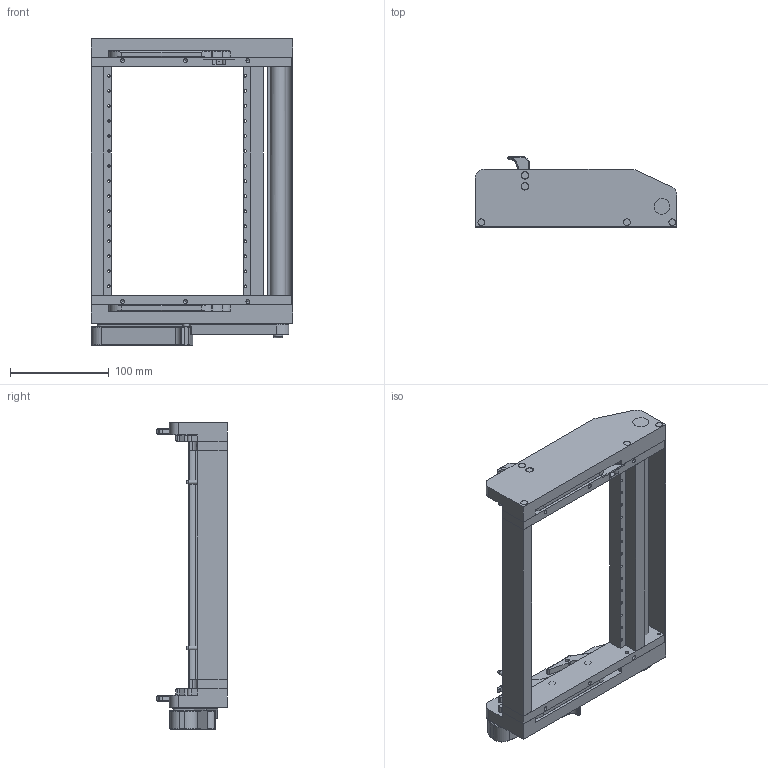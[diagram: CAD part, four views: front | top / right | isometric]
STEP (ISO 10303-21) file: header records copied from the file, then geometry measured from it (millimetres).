
FILE_DESCRIPTION((''),'2;1');
FILE_NAME('C:\old_Drawings\shrinkwrapped website .stp files\561354-STP.stp','2011-05-23T13:01:23',('GaryRobinson'),(''),'Autodesk Inventor 2011','Autodesk Inventor 2011','');
FILE_SCHEMA(('CONFIG_CONTROL_DESIGN'));
Length unit declared in the file: inch
Products named in the file (1): 561354-STP
Bounding box: 204.79 x 71.44 x 311.15 mm (x, y, z)
Surface area: 280838.5 mm2 (no closed solid volume)
Topology: 0 solids, 69 shells, 1360 faces, 3202 edges, 2043 vertices
Faces by surface type: plane 783, cylinder 344, cone 131, bspline 62, torus 36, sphere 4
Full cylindrical faces by diameter (mm): 0.005 x1, 1.194 x2, 1.524 x2, 1.608 x14, 1.702 x2, 1.981 x1, 2.159 x4, 2.184 x2, 2.438 x2, 2.54 x30, 2.642 x5, 2.845 x4, 2.946 x2, 3.175 x12, 3.302 x6, 3.505 x5, 3.81 x4, 3.962 x10, 3.975 x8, 3.988 x2, 4.166 x14, 4.763 x6, 4.826 x3, 5.74 x1, 5.766 x2, 6.02 x2, 6.35 x3, 6.858 x14, 7.938 x4, 9.473 x1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
Entity records: 41315 total; most frequent: CARTESIAN_POINT 10308, DIRECTION 6020, ORIENTED_EDGE 5560, EDGE_CURVE 2780, AXIS2_PLACEMENT_3D 2207, VERTEX_POINT 1938, EDGE_LOOP 1880, VECTOR 1606
